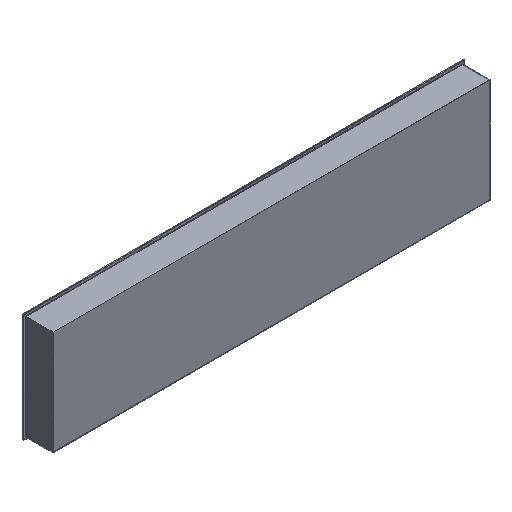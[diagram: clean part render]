
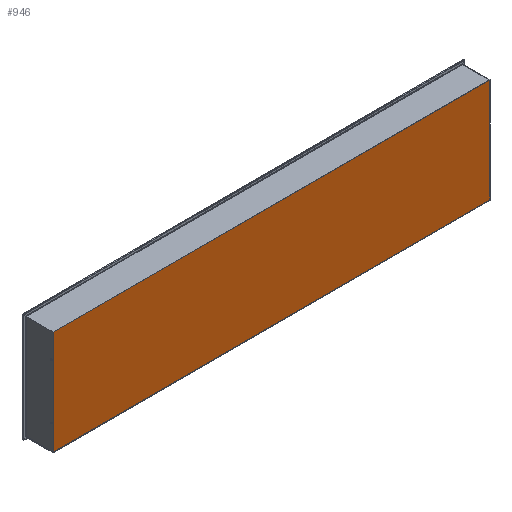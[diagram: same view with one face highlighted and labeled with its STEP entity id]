
A CAD part, isometric view. The second image highlights one B-rep face of the part: STEP entity #946.
In plain terms, the highlighted planar face has unit normal (0, -1, 0).
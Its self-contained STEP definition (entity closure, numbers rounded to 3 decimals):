
#88=FACE_OUTER_BOUND('',#141,.T.);
#141=EDGE_LOOP('',(#662,#663,#664,#665,#666));
#206=LINE('',#1362,#310);
#209=LINE('',#1439,#313);
#210=LINE('',#1440,#314);
#211=LINE('',#1442,#315);
#212=LINE('',#1443,#316);
#310=VECTOR('',#1107,283.);
#313=VECTOR('',#1112,10.);
#314=VECTOR('',#1113,10.);
#315=VECTOR('',#1114,10.);
#316=VECTOR('',#1115,283.);
#410=VERTEX_POINT('',#1359);
#411=VERTEX_POINT('',#1361);
#415=VERTEX_POINT('',#1437);
#416=VERTEX_POINT('',#1438);
#417=VERTEX_POINT('',#1441);
#507=EDGE_CURVE('',#410,#411,#206,.T.);
#512=EDGE_CURVE('',#415,#416,#209,.T.);
#513=EDGE_CURVE('',#415,#411,#210,.T.);
#514=EDGE_CURVE('',#417,#410,#211,.T.);
#515=EDGE_CURVE('',#416,#417,#212,.T.);
#662=ORIENTED_EDGE('',*,*,#512,.F.);
#663=ORIENTED_EDGE('',*,*,#513,.T.);
#664=ORIENTED_EDGE('',*,*,#507,.F.);
#665=ORIENTED_EDGE('',*,*,#514,.F.);
#666=ORIENTED_EDGE('',*,*,#515,.F.);
#915=PLANE('',#1012);
#946=ADVANCED_FACE('',(#88),#915,.F.);
#1012=AXIS2_PLACEMENT_3D('',#1436,#1110,#1111);
#1107=DIRECTION('',(0.,0.,-1.));
#1110=DIRECTION('center_axis',(0.,1.,0.));
#1111=DIRECTION('ref_axis',(0.,0.,1.));
#1112=DIRECTION('',(0.,0.,1.));
#1113=DIRECTION('',(1.,0.,0.));
#1114=DIRECTION('',(1.,0.,0.));
#1115=DIRECTION('',(0.,0.,1.));
#1359=CARTESIAN_POINT('',(3852.443,-9.6,2062.487));
#1361=CARTESIAN_POINT('',(3852.443,-9.6,1779.487));
#1362=CARTESIAN_POINT('',(3852.443,-9.6,2062.487));
#1436=CARTESIAN_POINT('Origin',(3110.943,-9.6,2067.107));
#1437=CARTESIAN_POINT('',(2669.443,-9.6,1779.487));
#1438=CARTESIAN_POINT('',(2669.443,-9.6,1780.487));
#1439=CARTESIAN_POINT('',(2669.443,-9.6,1779.487));
#1440=CARTESIAN_POINT('',(3851.443,-9.6,1779.487));
#1441=CARTESIAN_POINT('',(2669.443,-9.6,2062.487));
#1442=CARTESIAN_POINT('',(3481.193,-9.6,2062.487));
#1443=CARTESIAN_POINT('',(2669.443,-9.6,1779.487));
